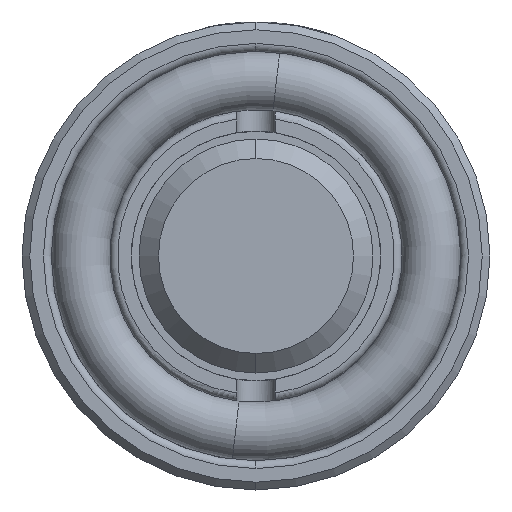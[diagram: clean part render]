
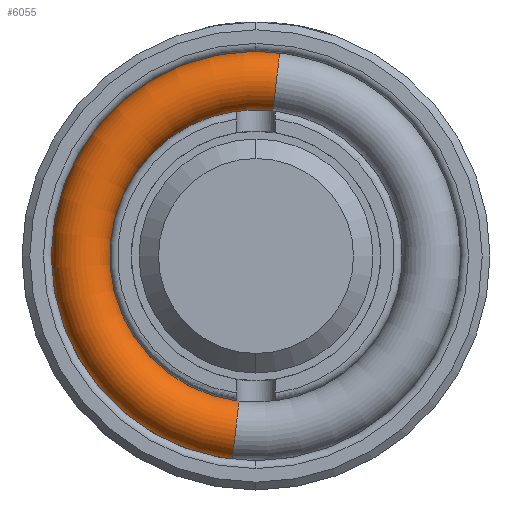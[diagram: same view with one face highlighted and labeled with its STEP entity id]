
A CAD part, front view. The second image highlights one B-rep face of the part: STEP entity #6055.
In plain terms, the highlighted toroidal (fillet/blend) face has major radius 4.5 mm and minor radius 0.75 mm.
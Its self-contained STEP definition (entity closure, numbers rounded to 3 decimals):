
#79 = EDGE_CURVE ( 'NONE', #19950, #10275, #5430, .T. ) ;
#93 = CARTESIAN_POINT ( 'NONE',  ( 0., 0., 5.25 ) ) ;
#540 = FACE_OUTER_BOUND ( 'NONE', #19363, .T. ) ;
#3611 = VERTEX_POINT ( 'NONE', #20047 ) ;
#3657 = CARTESIAN_POINT ( 'NONE',  ( 0., 0., -5.25 ) ) ;
#3874 = CARTESIAN_POINT ( 'NONE',  ( 0., 0., 0. ) ) ;
#4491 = AXIS2_PLACEMENT_3D ( 'NONE', #11397, #25886, #13490 ) ;
#5398 = AXIS2_PLACEMENT_3D ( 'NONE', #8487, #12770, #21112 ) ;
#5430 = CIRCLE ( 'NONE', #10527, 5.25 ) ;
#6055 = ADVANCED_FACE ( 'NONE', ( #540 ), #23243, .T. ) ;
#7035 = EDGE_CURVE ( 'NONE', #3611, #12937, #16646, .T. ) ;
#7087 = ORIENTED_EDGE ( 'NONE', *, *, #79, .T. ) ;
#8047 = DIRECTION ( 'NONE',  ( 1., 0., 0. ) ) ;
#8062 = ORIENTED_EDGE ( 'NONE', *, *, #21620, .F. ) ;
#8487 = CARTESIAN_POINT ( 'NONE',  ( 0., 0., -4.5 ) ) ;
#8949 = EDGE_CURVE ( 'NONE', #10275, #12937, #15261, .T. ) ;
#10275 = VERTEX_POINT ( 'NONE', #3657 ) ;
#10527 = AXIS2_PLACEMENT_3D ( 'NONE', #3874, #16534, #18524 ) ;
#10587 = CARTESIAN_POINT ( 'NONE',  ( 0., 0., -3.75 ) ) ;
#11397 = CARTESIAN_POINT ( 'NONE',  ( 0., 0., 0. ) ) ;
#11791 = ORIENTED_EDGE ( 'NONE', *, *, #7035, .F. ) ;
#12485 = AXIS2_PLACEMENT_3D ( 'NONE', #16798, #14729, #24972 ) ;
#12770 = DIRECTION ( 'NONE',  ( -1., 0., 0. ) ) ;
#12937 = VERTEX_POINT ( 'NONE', #10587 ) ;
#13490 = DIRECTION ( 'NONE',  ( 0., 0., -1. ) ) ;
#14729 = DIRECTION ( 'NONE',  ( 0., -1., 0. ) ) ;
#15261 = CIRCLE ( 'NONE', #5398, 0.75 ) ;
#16488 = DIRECTION ( 'NONE',  ( 0., 0., -1. ) ) ;
#16534 = DIRECTION ( 'NONE',  ( 0., -1., 0. ) ) ;
#16646 = CIRCLE ( 'NONE', #4491, 3.75 ) ;
#16798 = CARTESIAN_POINT ( 'NONE',  ( 0., 0., 0. ) ) ;
#18524 = DIRECTION ( 'NONE',  ( 0., 0., -1. ) ) ;
#19363 = EDGE_LOOP ( 'NONE', ( #8062, #7087, #23077, #11791 ) ) ;
#19950 = VERTEX_POINT ( 'NONE', #93 ) ;
#20047 = CARTESIAN_POINT ( 'NONE',  ( 0., 0., 3.75 ) ) ;
#21112 = DIRECTION ( 'NONE',  ( 0., 0., 1. ) ) ;
#21620 = EDGE_CURVE ( 'NONE', #19950, #3611, #25934, .T. ) ;
#23077 = ORIENTED_EDGE ( 'NONE', *, *, #8949, .T. ) ;
#23243 = TOROIDAL_SURFACE ( 'NONE', #12485, 4.5, 0.75 ) ;
#23373 = AXIS2_PLACEMENT_3D ( 'NONE', #26739, #8047, #16488 ) ;
#24972 = DIRECTION ( 'NONE',  ( 0., 0., -1. ) ) ;
#25886 = DIRECTION ( 'NONE',  ( 0., -1., 0. ) ) ;
#25934 = CIRCLE ( 'NONE', #23373, 0.75 ) ;
#26739 = CARTESIAN_POINT ( 'NONE',  ( 0., 0., 4.5 ) ) ;
